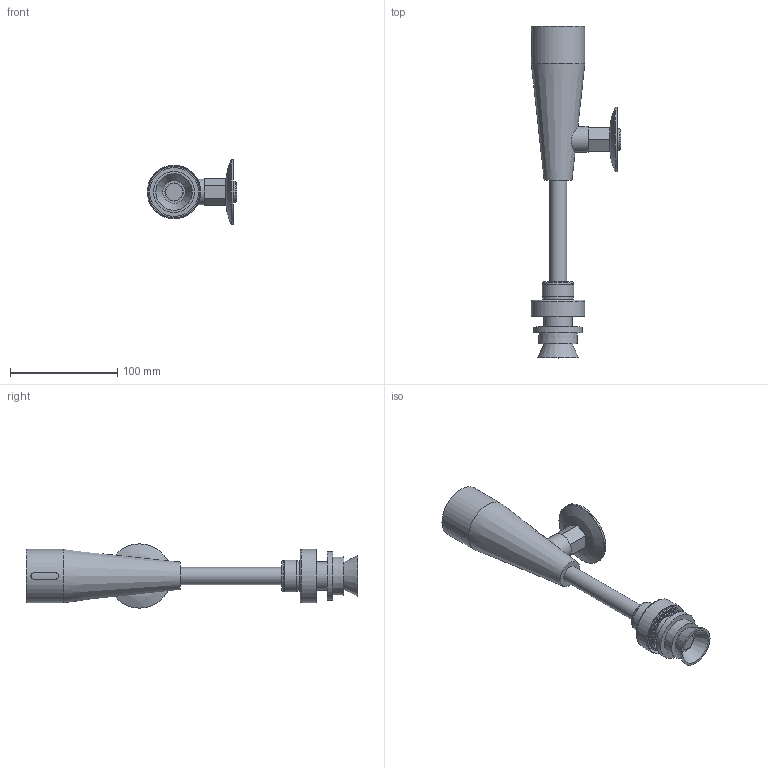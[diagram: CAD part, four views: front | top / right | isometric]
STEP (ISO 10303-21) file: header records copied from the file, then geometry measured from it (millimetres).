
FILE_DESCRIPTION(/* description */ (''),/* implementation_level */ '2;1');
FILE_NAME(/* name */ 'C:\Comun\ARCHIVOS 3D MAX\23011000.stp',/* time_stamp */ '2018-05-23T10:12:28-05:00',/* author */ ('jroman'),/* organization */ (''),/* preprocessor_version */ 'ST-DEVELOPER v17',/* originating_system */ 'Autodesk Inventor 2019',/* authorisation */ '');
FILE_SCHEMA (('AUTOMOTIVE_DESIGN { 1 0 10303 214 3 1 1 }'));
Length unit declared in the file: millimetre
Products named in the file (11): 23011000; PVJ0230; PVJ0433; PV04509; ON00512; OL07434; AI04155; BP04238; IS07027; IS07027_1; IS07027_2
Assembly tree (10 placements, depth 3):
  23011000
    PVJ0230
    PVJ0433
    PV04509
    ON00512
    OL07434
    AI04155
    BP04238
    IS07027
      IS07027_1
      IS07027_2
Bounding box: 83.5 x 310 x 60 mm (x, y, z)
Volume: 279036.5 mm3; surface area: 69565.1 mm2
Topology: 9 solids, 9 shells, 130 faces, 348 edges, 251 vertices
Faces by surface type: plane 65, cylinder 29, cone 18, torus 16, bspline 2
Full cylindrical faces by diameter (mm): 15.2 x1, 16 x3, 17 x1, 19.5 x1, 20.5 x1, 21 x1, 24 x1, 24.5 x1, 24.6 x1, 26.4 x1, 26.5 x1, 27.5 x1, 28.5 x2, 29.5 x2, 42 x1, 45 x1, 45.5 x1, 49.2 x1, 50 x2, 58.8 x1, 60 x1
Entity records: 4912 total; most frequent: CARTESIAN_POINT 1029, DIRECTION 821, ORIENTED_EDGE 696, AXIS2_PLACEMENT_3D 357, EDGE_CURVE 348, VERTEX_POINT 251, CIRCLE 208, EDGE_LOOP 161
